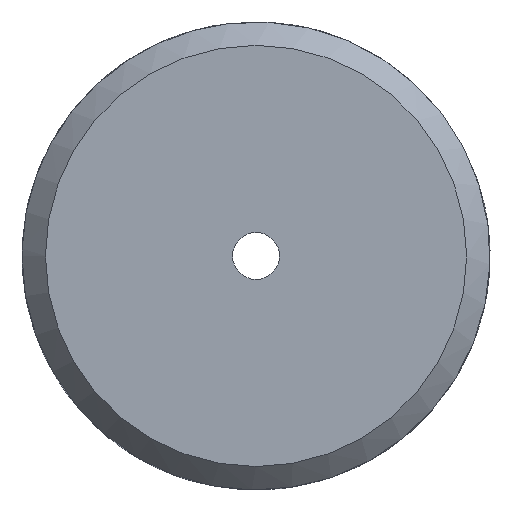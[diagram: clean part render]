
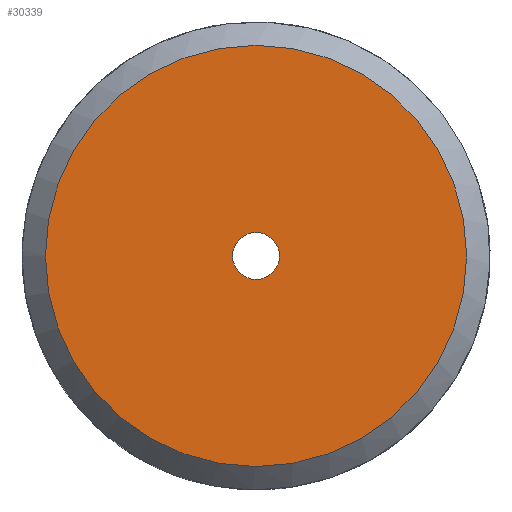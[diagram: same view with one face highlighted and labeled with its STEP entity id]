
A CAD part, left-side view. The second image highlights one B-rep face of the part: STEP entity #30339.
In plain terms, the highlighted planar face has unit normal (-1, 0, 0).
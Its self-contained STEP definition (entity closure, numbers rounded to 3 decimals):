
#8587=PLANE('',#29969);
#10954=ORIENTED_EDGE('',*,*,#12755,.T.);
#10955=ORIENTED_EDGE('',*,*,#12756,.F.);
#11292=CIRCLE('',#29968,4.5);
#11293=CIRCLE('',#29970,0.5);
#11899=VERTEX_POINT('',#29450);
#11900=VERTEX_POINT('',#29453);
#12755=EDGE_CURVE('',#11899,#11899,#11292,.T.);
#12756=EDGE_CURVE('',#11900,#11900,#11293,.T.);
#13010=EDGE_LOOP('',(#10954));
#13011=EDGE_LOOP('',(#10955));
#13269=FACE_BOUND('',#13010,.T.);
#13270=FACE_BOUND('',#13011,.T.);
#14213=DIRECTION('',(-1.,0.,0.));
#14214=DIRECTION('',(0.,0.,-4.5));
#14215=DIRECTION('',(-1.,0.,0.));
#14216=DIRECTION('',(0.,1.,0.));
#14217=DIRECTION('',(-1.,0.,0.));
#14218=DIRECTION('',(0.,0.,0.5));
#29450=CARTESIAN_POINT('',(31.712,206.302,-4.5));
#29451=CARTESIAN_POINT('',(31.712,206.302,0.));
#29452=CARTESIAN_POINT('',(31.712,206.302,-4.5));
#29453=CARTESIAN_POINT('',(31.712,206.302,0.5));
#29454=CARTESIAN_POINT('',(31.712,206.302,0.));
#29968=AXIS2_PLACEMENT_3D('',#29451,#14213,#14214);
#29969=AXIS2_PLACEMENT_3D('',#29452,#14215,#14216);
#29970=AXIS2_PLACEMENT_3D('',#29454,#14217,#14218);
#30339=ADVANCED_FACE('',(#13269,#13270),#8587,.T.);
